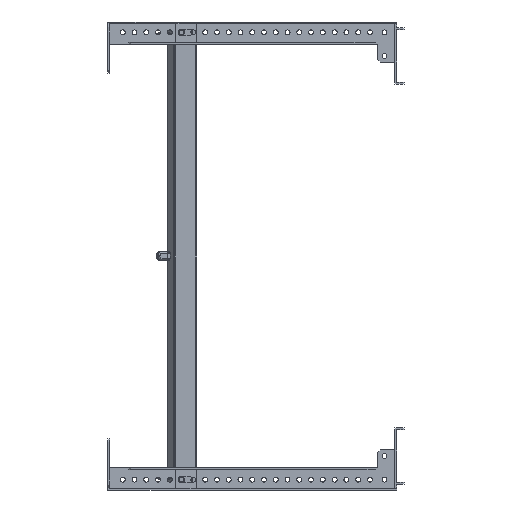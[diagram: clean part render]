
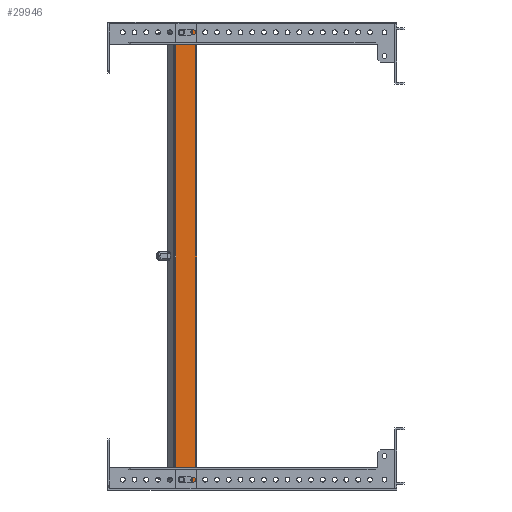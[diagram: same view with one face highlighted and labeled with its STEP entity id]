
A CAD part, front view. The second image highlights one B-rep face of the part: STEP entity #29946.
In plain terms, the highlighted planar face has unit normal (0, -1, 0).
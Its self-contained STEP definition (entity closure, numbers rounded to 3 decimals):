
#571 = CARTESIAN_POINT ( 'NONE',  ( 1112.302, -254., 391. ) ) ;
#590 = AXIS2_PLACEMENT_3D ( 'NONE', #19657, #22267, #3278 ) ;
#892 = ORIENTED_EDGE ( 'NONE', *, *, #7043, .T. ) ;
#976 = FACE_BOUND ( 'NONE', #27476, .T. ) ;
#990 = CIRCLE ( 'NONE', #22666, 3.5 ) ;
#1014 = CARTESIAN_POINT ( 'NONE',  ( 1120.302, -254., -84. ) ) ;
#1136 = LINE ( 'NONE', #13029, #20517 ) ;
#1172 = DIRECTION ( 'NONE',  ( -1., 0., 0. ) ) ;
#1221 = VECTOR ( 'NONE', #19940, 1000. ) ;
#1677 = ORIENTED_EDGE ( 'NONE', *, *, #28209, .F. ) ;
#1735 = AXIS2_PLACEMENT_3D ( 'NONE', #11987, #16642, #3021 ) ;
#1745 = EDGE_LOOP ( 'NONE', ( #19639, #3981, #2618, #21919 ) ) ;
#1852 = VERTEX_POINT ( 'NONE', #23779 ) ;
#2351 = ORIENTED_EDGE ( 'NONE', *, *, #10761, .T. ) ;
#2618 = ORIENTED_EDGE ( 'NONE', *, *, #25865, .F. ) ;
#2736 = LINE ( 'NONE', #571, #30421 ) ;
#3021 = DIRECTION ( 'NONE',  ( -1., 0., 0. ) ) ;
#3278 = DIRECTION ( 'NONE',  ( -1., 0., 0. ) ) ;
#3408 = LINE ( 'NONE', #12843, #1221 ) ;
#3629 = CARTESIAN_POINT ( 'NONE',  ( 1112.302, -254., -84. ) ) ;
#3981 = ORIENTED_EDGE ( 'NONE', *, *, #26287, .F. ) ;
#4008 = DIRECTION ( 'NONE',  ( -1., 0., 0. ) ) ;
#4195 = ORIENTED_EDGE ( 'NONE', *, *, #26815, .T. ) ;
#4610 = VERTEX_POINT ( 'NONE', #18472 ) ;
#4935 = VERTEX_POINT ( 'NONE', #15482 ) ;
#5450 = FACE_BOUND ( 'NONE', #5703, .T. ) ;
#5703 = EDGE_LOOP ( 'NONE', ( #13104, #4195, #2351, #892, #20354 ) ) ;
#6122 = VECTOR ( 'NONE', #6167, 1000. ) ;
#6167 = DIRECTION ( 'NONE',  ( 0., 0., 1. ) ) ;
#6323 = CARTESIAN_POINT ( 'NONE',  ( 1108.802, -254., -87.5 ) ) ;
#6525 = CARTESIAN_POINT ( 'NONE',  ( 1128.304, -254., 397.5 ) ) ;
#6984 = VERTEX_POINT ( 'NONE', #23697 ) ;
#7043 = EDGE_CURVE ( 'NONE', #4610, #25192, #990, .T. ) ;
#7963 = DIRECTION ( 'NONE',  ( -1., 0., 0. ) ) ;
#8232 = FACE_OUTER_BOUND ( 'NONE', #1745, .T. ) ;
#8491 = LINE ( 'NONE', #17921, #6122 ) ;
#8846 = EDGE_CURVE ( 'NONE', #15366, #12262, #3408, .T. ) ;
#8987 = CARTESIAN_POINT ( 'NONE',  ( 1128.304, -254., -97.5 ) ) ;
#9723 = VECTOR ( 'NONE', #27101, 1000. ) ;
#10583 = CARTESIAN_POINT ( 'NONE',  ( 1150.146, -254., -97.5 ) ) ;
#10736 = LINE ( 'NONE', #17703, #9723 ) ;
#10761 = EDGE_CURVE ( 'NONE', #22825, #4610, #2736, .T. ) ;
#10888 = LINE ( 'NONE', #3629, #29426 ) ;
#11034 = AXIS2_PLACEMENT_3D ( 'NONE', #20120, #14881, #22423 ) ;
#11111 = CARTESIAN_POINT ( 'NONE',  ( 1112.302, -254., 387.5 ) ) ;
#11394 = CIRCLE ( 'NONE', #11468, 3.5 ) ;
#11468 = AXIS2_PLACEMENT_3D ( 'NONE', #21893, #19596, #28997 ) ;
#11672 = CIRCLE ( 'NONE', #22016, 3.5 ) ;
#11673 = DIRECTION ( 'NONE',  ( 1., 0., 0. ) ) ;
#11987 = CARTESIAN_POINT ( 'NONE',  ( 1112.302, -254., 387.5 ) ) ;
#12262 = VERTEX_POINT ( 'NONE', #15897 ) ;
#12364 = CARTESIAN_POINT ( 'NONE',  ( 1112.302, -254., 391. ) ) ;
#12843 = CARTESIAN_POINT ( 'NONE',  ( 1112.302, -254., -91. ) ) ;
#13029 = CARTESIAN_POINT ( 'NONE',  ( 1105.802, -254., -97.5 ) ) ;
#13104 = ORIENTED_EDGE ( 'NONE', *, *, #21925, .T. ) ;
#13148 = VERTEX_POINT ( 'NONE', #8987 ) ;
#13578 = VERTEX_POINT ( 'NONE', #6323 ) ;
#13591 = DIRECTION ( 'NONE',  ( 0., 1., 0. ) ) ;
#14454 = EDGE_CURVE ( 'NONE', #1852, #13578, #29069, .T. ) ;
#14881 = DIRECTION ( 'NONE',  ( 0., 1., 0. ) ) ;
#15366 = VERTEX_POINT ( 'NONE', #22227 ) ;
#15482 = CARTESIAN_POINT ( 'NONE',  ( 1105.802, -254., -97.5 ) ) ;
#15672 = ORIENTED_EDGE ( 'NONE', *, *, #14454, .F. ) ;
#15897 = CARTESIAN_POINT ( 'NONE',  ( 1120.302, -254., -91. ) ) ;
#16305 = CARTESIAN_POINT ( 'NONE',  ( 1120.302, -254., 387.5 ) ) ;
#16324 = LINE ( 'NONE', #23409, #26096 ) ;
#16473 = DIRECTION ( 'NONE',  ( -1., 0., 0. ) ) ;
#16642 = DIRECTION ( 'NONE',  ( 0., 1., 0. ) ) ;
#17265 = AXIS2_PLACEMENT_3D ( 'NONE', #18784, #28183, #16473 ) ;
#17366 = DIRECTION ( 'NONE',  ( 0., 0., 1. ) ) ;
#17549 = LINE ( 'NONE', #10583, #29382 ) ;
#17580 = EDGE_CURVE ( 'NONE', #20115, #26408, #16324, .T. ) ;
#17703 = CARTESIAN_POINT ( 'NONE',  ( 1112.302, -254., 384. ) ) ;
#17921 = CARTESIAN_POINT ( 'NONE',  ( 1128.304, -254., -100.859 ) ) ;
#18017 = CIRCLE ( 'NONE', #1735, 3.5 ) ;
#18261 = ORIENTED_EDGE ( 'NONE', *, *, #28772, .F. ) ;
#18472 = CARTESIAN_POINT ( 'NONE',  ( 1120.302, -254., 391. ) ) ;
#18498 = CARTESIAN_POINT ( 'NONE',  ( 1112.302, -254., 384. ) ) ;
#18765 = DIRECTION ( 'NONE',  ( 0., 1., 0. ) ) ;
#18784 = CARTESIAN_POINT ( 'NONE',  ( 1112.302, -254., -87.5 ) ) ;
#18822 = ORIENTED_EDGE ( 'NONE', *, *, #8846, .F. ) ;
#19596 = DIRECTION ( 'NONE',  ( 0., -1., 0. ) ) ;
#19639 = ORIENTED_EDGE ( 'NONE', *, *, #17580, .F. ) ;
#19657 = CARTESIAN_POINT ( 'NONE',  ( 1112.302, -254., -87.5 ) ) ;
#19940 = DIRECTION ( 'NONE',  ( 1., 0., 0. ) ) ;
#20115 = VERTEX_POINT ( 'NONE', #29602 ) ;
#20120 = CARTESIAN_POINT ( 'NONE',  ( 1150.77, -254., 150. ) ) ;
#20354 = ORIENTED_EDGE ( 'NONE', *, *, #27016, .T. ) ;
#20517 = VECTOR ( 'NONE', #17366, 1000. ) ;
#20983 = CARTESIAN_POINT ( 'NONE',  ( 1120.302, -254., 384. ) ) ;
#21224 = DIRECTION ( 'NONE',  ( -1., 0., 0. ) ) ;
#21308 = CIRCLE ( 'NONE', #590, 3.5 ) ;
#21893 = CARTESIAN_POINT ( 'NONE',  ( 1120.302, -254., -87.5 ) ) ;
#21919 = ORIENTED_EDGE ( 'NONE', *, *, #30476, .T. ) ;
#21925 = EDGE_CURVE ( 'NONE', #24568, #6984, #18017, .T. ) ;
#22016 = AXIS2_PLACEMENT_3D ( 'NONE', #11111, #13591, #4008 ) ;
#22227 = CARTESIAN_POINT ( 'NONE',  ( 1112.302, -254., -91. ) ) ;
#22267 = DIRECTION ( 'NONE',  ( 0., -1., 0. ) ) ;
#22423 = DIRECTION ( 'NONE',  ( 1., 0., 0. ) ) ;
#22666 = AXIS2_PLACEMENT_3D ( 'NONE', #16305, #18765, #21224 ) ;
#22825 = VERTEX_POINT ( 'NONE', #12364 ) ;
#23409 = CARTESIAN_POINT ( 'NONE',  ( 1105.802, -254., 397.5 ) ) ;
#23697 = CARTESIAN_POINT ( 'NONE',  ( 1108.802, -254., 387.5 ) ) ;
#23779 = CARTESIAN_POINT ( 'NONE',  ( 1112.302, -254., -84. ) ) ;
#24568 = VERTEX_POINT ( 'NONE', #18498 ) ;
#25192 = VERTEX_POINT ( 'NONE', #20983 ) ;
#25865 = EDGE_CURVE ( 'NONE', #13148, #4935, #17549, .T. ) ;
#26096 = VECTOR ( 'NONE', #11673, 1000. ) ;
#26287 = EDGE_CURVE ( 'NONE', #4935, #20115, #1136, .T. ) ;
#26408 = VERTEX_POINT ( 'NONE', #6525 ) ;
#26815 = EDGE_CURVE ( 'NONE', #6984, #22825, #11672, .T. ) ;
#26983 = EDGE_CURVE ( 'NONE', #28359, #1852, #10888, .T. ) ;
#27016 = EDGE_CURVE ( 'NONE', #25192, #24568, #10736, .T. ) ;
#27101 = DIRECTION ( 'NONE',  ( -1., 0., 0. ) ) ;
#27476 = EDGE_LOOP ( 'NONE', ( #18822, #18261, #15672, #30068, #1677 ) ) ;
#28183 = DIRECTION ( 'NONE',  ( 0., -1., 0. ) ) ;
#28209 = EDGE_CURVE ( 'NONE', #12262, #28359, #11394, .T. ) ;
#28359 = VERTEX_POINT ( 'NONE', #1014 ) ;
#28772 = EDGE_CURVE ( 'NONE', #13578, #15366, #21308, .T. ) ;
#28997 = DIRECTION ( 'NONE',  ( -1., 0., 0. ) ) ;
#29069 = CIRCLE ( 'NONE', #17265, 3.5 ) ;
#29382 = VECTOR ( 'NONE', #7963, 1000. ) ;
#29384 = PLANE ( 'NONE',  #11034 ) ;
#29426 = VECTOR ( 'NONE', #1172, 1000. ) ;
#29602 = CARTESIAN_POINT ( 'NONE',  ( 1105.802, -254., 397.5 ) ) ;
#29946 = ADVANCED_FACE ( 'NONE', ( #8232, #5450, #976 ), #29384, .F. ) ;
#30068 = ORIENTED_EDGE ( 'NONE', *, *, #26983, .F. ) ;
#30421 = VECTOR ( 'NONE', #30525, 1000. ) ;
#30476 = EDGE_CURVE ( 'NONE', #13148, #26408, #8491, .T. ) ;
#30525 = DIRECTION ( 'NONE',  ( 1., 0., 0. ) ) ;
